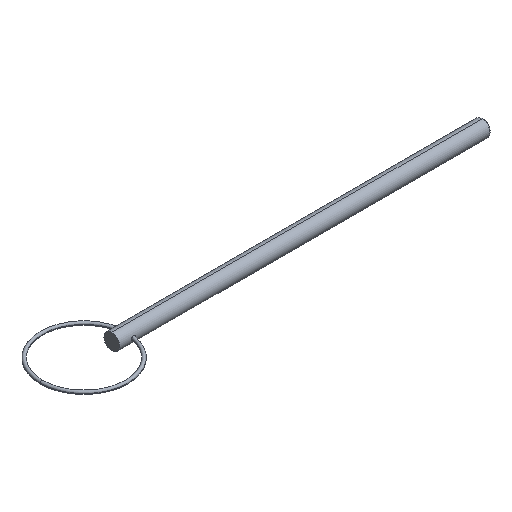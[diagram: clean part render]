
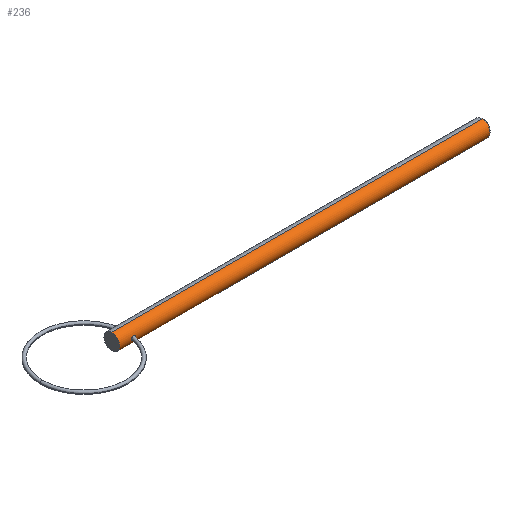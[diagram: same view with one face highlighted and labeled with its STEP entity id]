
A CAD part, isometric view. The second image highlights one B-rep face of the part: STEP entity #236.
In plain terms, the highlighted cylindrical face has radius 2.38 mm (diameter 4.76 mm), a partial arc.
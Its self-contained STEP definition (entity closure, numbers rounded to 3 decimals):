
#4 = DIRECTION ( 'NONE',  ( 1., 0., 0. ) ) ;
#22 = CARTESIAN_POINT ( 'NONE',  ( 0., 0., -2.38 ) ) ;
#34 = B_SPLINE_CURVE_WITH_KNOTS ( 'NONE', 3,
 ( #370, #150, #612, #628, #320, #513, #306, #268, #506, #756 ),
 .UNSPECIFIED., .F., .F.,
 ( 4, 2, 2, 2, 4 ),
 ( 0.002, 0.003, 0.003, 0.004, 0.004 ),
 .UNSPECIFIED. ) ;
#54 = CIRCLE ( 'NONE', #781, 2.38 ) ;
#83 = DIRECTION ( 'NONE',  ( 1., 0., 0. ) ) ;
#100 = ORIENTED_EDGE ( 'NONE', *, *, #185, .T. ) ;
#103 = VERTEX_POINT ( 'NONE', #498 ) ;
#105 = AXIS2_PLACEMENT_3D ( 'NONE', #323, #4, #255 ) ;
#118 = VERTEX_POINT ( 'NONE', #134 ) ;
#123 = CARTESIAN_POINT ( 'NONE',  ( 3.836, -2.323, 0.528 ) ) ;
#124 = DIRECTION ( 'NONE',  ( 1., 0., 0. ) ) ;
#126 = EDGE_CURVE ( 'NONE', #118, #489, #687, .T. ) ;
#134 = CARTESIAN_POINT ( 'NONE',  ( 0., 0., 2.38 ) ) ;
#142 = FACE_BOUND ( 'NONE', #180, .T. ) ;
#143 = AXIS2_PLACEMENT_3D ( 'NONE', #405, #644, #206 ) ;
#147 = CARTESIAN_POINT ( 'NONE',  ( 110.835, 0., 0. ) ) ;
#150 = CARTESIAN_POINT ( 'NONE',  ( 4.75, -2.38, -0.157 ) ) ;
#151 = CARTESIAN_POINT ( 'NONE',  ( 4.75, -2.38, 0. ) ) ;
#180 = EDGE_LOOP ( 'NONE', ( #723, #417 ) ) ;
#185 = EDGE_CURVE ( 'NONE', #118, #249, #451, .T. ) ;
#202 = LINE ( 'NONE', #328, #694 ) ;
#203 = CARTESIAN_POINT ( 'NONE',  ( 3.61, -2.362, 0.313 ) ) ;
#206 = DIRECTION ( 'NONE',  ( 0., 0., -1. ) ) ;
#219 = EDGE_CURVE ( 'NONE', #249, #103, #202, .T. ) ;
#220 = DIRECTION ( 'NONE',  ( 1., 0., 0. ) ) ;
#236 = ADVANCED_FACE ( 'NONE', ( #455, #142 ), #462, .T. ) ;
#249 = VERTEX_POINT ( 'NONE', #22 ) ;
#255 = DIRECTION ( 'NONE',  ( 0., 0., -1. ) ) ;
#268 = CARTESIAN_POINT ( 'NONE',  ( 3.61, -2.362, -0.312 ) ) ;
#290 = EDGE_CURVE ( 'NONE', #489, #103, #54, .T. ) ;
#306 = CARTESIAN_POINT ( 'NONE',  ( 3.836, -2.323, -0.528 ) ) ;
#317 = VERTEX_POINT ( 'NONE', #151 ) ;
#320 = CARTESIAN_POINT ( 'NONE',  ( 4.307, -2.304, -0.597 ) ) ;
#323 = CARTESIAN_POINT ( 'NONE',  ( 0., 0., 0. ) ) ;
#328 = CARTESIAN_POINT ( 'NONE',  ( 0., 0., -2.38 ) ) ;
#329 = CARTESIAN_POINT ( 'NONE',  ( 3.538, -2.38, 0. ) ) ;
#344 = ORIENTED_EDGE ( 'NONE', *, *, #219, .T. ) ;
#353 = CARTESIAN_POINT ( 'NONE',  ( 110.835, 0., 2.38 ) ) ;
#366 = B_SPLINE_CURVE_WITH_KNOTS ( 'NONE', 3,
 ( #329, #569, #203, #123, #488, #510, #691, #429, #729, #672 ),
 .UNSPECIFIED., .F., .F.,
 ( 4, 2, 2, 2, 4 ),
 ( 0., 0.001, 0.001, 0.002, 0.002 ),
 .UNSPECIFIED. ) ;
#370 = CARTESIAN_POINT ( 'NONE',  ( 4.75, -2.38, 0. ) ) ;
#405 = CARTESIAN_POINT ( 'NONE',  ( 0., 0., 0. ) ) ;
#417 = ORIENTED_EDGE ( 'NONE', *, *, #725, .T. ) ;
#429 = CARTESIAN_POINT ( 'NONE',  ( 4.687, -2.362, 0.314 ) ) ;
#451 = CIRCLE ( 'NONE', #105, 2.38 ) ;
#455 = FACE_OUTER_BOUND ( 'NONE', #637, .T. ) ;
#462 = CYLINDRICAL_SURFACE ( 'NONE', #143, 2.38 ) ;
#478 = ORIENTED_EDGE ( 'NONE', *, *, #126, .F. ) ;
#488 = CARTESIAN_POINT ( 'NONE',  ( 3.991, -2.305, 0.592 ) ) ;
#489 = VERTEX_POINT ( 'NONE', #353 ) ;
#493 = CARTESIAN_POINT ( 'NONE',  ( 3.538, -2.38, 0. ) ) ;
#498 = CARTESIAN_POINT ( 'NONE',  ( 110.835, 0., -2.38 ) ) ;
#506 = CARTESIAN_POINT ( 'NONE',  ( 3.538, -2.38, -0.159 ) ) ;
#510 = CARTESIAN_POINT ( 'NONE',  ( 4.307, -2.304, 0.597 ) ) ;
#513 = CARTESIAN_POINT ( 'NONE',  ( 3.992, -2.305, -0.592 ) ) ;
#569 = CARTESIAN_POINT ( 'NONE',  ( 3.538, -2.38, 0.159 ) ) ;
#586 = ORIENTED_EDGE ( 'NONE', *, *, #290, .F. ) ;
#612 = CARTESIAN_POINT ( 'NONE',  ( 4.687, -2.362, -0.314 ) ) ;
#621 = CARTESIAN_POINT ( 'NONE',  ( 0., 0., 2.38 ) ) ;
#628 = CARTESIAN_POINT ( 'NONE',  ( 4.464, -2.322, -0.536 ) ) ;
#633 = EDGE_CURVE ( 'NONE', #731, #317, #366, .T. ) ;
#637 = EDGE_LOOP ( 'NONE', ( #478, #100, #344, #586 ) ) ;
#644 = DIRECTION ( 'NONE',  ( 1., 0., 0. ) ) ;
#672 = CARTESIAN_POINT ( 'NONE',  ( 4.75, -2.38, 0. ) ) ;
#687 = LINE ( 'NONE', #621, #693 ) ;
#691 = CARTESIAN_POINT ( 'NONE',  ( 4.465, -2.322, 0.535 ) ) ;
#693 = VECTOR ( 'NONE', #124, 1000. ) ;
#694 = VECTOR ( 'NONE', #83, 1000. ) ;
#702 = DIRECTION ( 'NONE',  ( 0., 0., -1. ) ) ;
#723 = ORIENTED_EDGE ( 'NONE', *, *, #633, .T. ) ;
#725 = EDGE_CURVE ( 'NONE', #317, #731, #34, .T. ) ;
#729 = CARTESIAN_POINT ( 'NONE',  ( 4.75, -2.38, 0.157 ) ) ;
#731 = VERTEX_POINT ( 'NONE', #493 ) ;
#756 = CARTESIAN_POINT ( 'NONE',  ( 3.538, -2.38, 0. ) ) ;
#781 = AXIS2_PLACEMENT_3D ( 'NONE', #147, #220, #702 ) ;
